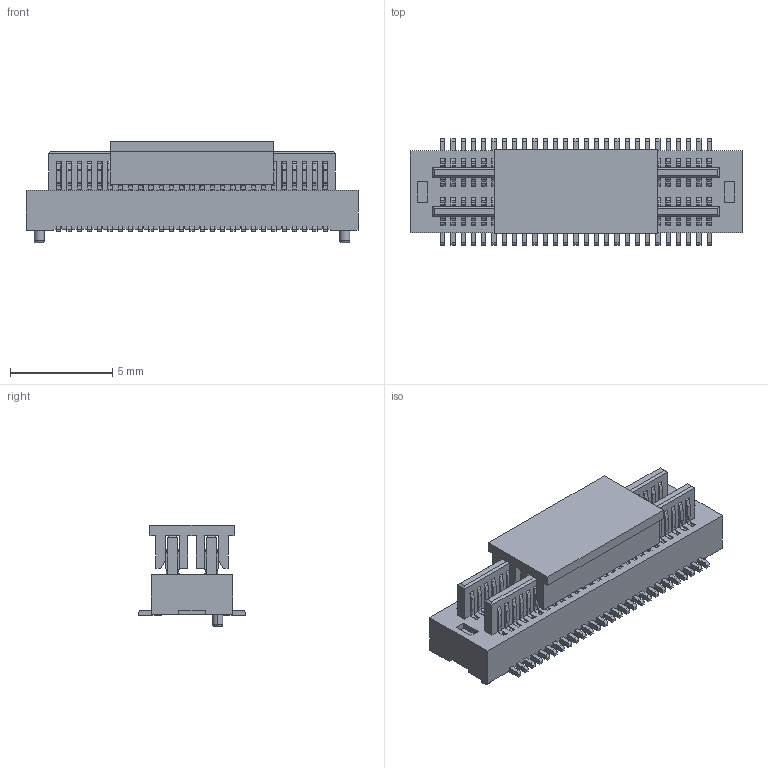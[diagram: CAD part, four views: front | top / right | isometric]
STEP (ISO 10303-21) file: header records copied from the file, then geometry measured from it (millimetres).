
FILE_DESCRIPTION(('CATIA V5 STEP Exchange'),'2;1');
FILE_NAME('F:\黄富鸿\板对板\PBB05\公座\H2.0\编带+盖\HC-PBB05-2-54-M-H2.0-G1-R-P-04（BTB0.5 双槽 公座 立贴 带柱 编带+盖）-HCTL.stp','2025-12-18T02:10:56+00:00',('none'),('none'),'CATIA Version 5 Release 20 GA (IN-10)','CATIA V5 STEP AP203','none');
FILE_SCHEMA(('CONFIG_CONTROL_DESIGN'));
Products named in the file (1): Part2
Bounding box: 16.2 x 5.2 x 4.95 mm (x, y, z)
Volume: 187.1 mm3; surface area: 1359.5 mm2
Topology: 56 solids, 56 shells, 3104 faces, 9486 edges, 6284 vertices
Faces by surface type: plane 2016, cylinder 1084, torus 4
Entity records: 90995 total; most frequent: ORIENTED_EDGE 18972, CARTESIAN_POINT 16884, DIRECTION 10200, EDGE_CURVE 9486, VECTOR 7094, LINE 7094, VERTEX_POINT 6284, EDGE_LOOP 3110
